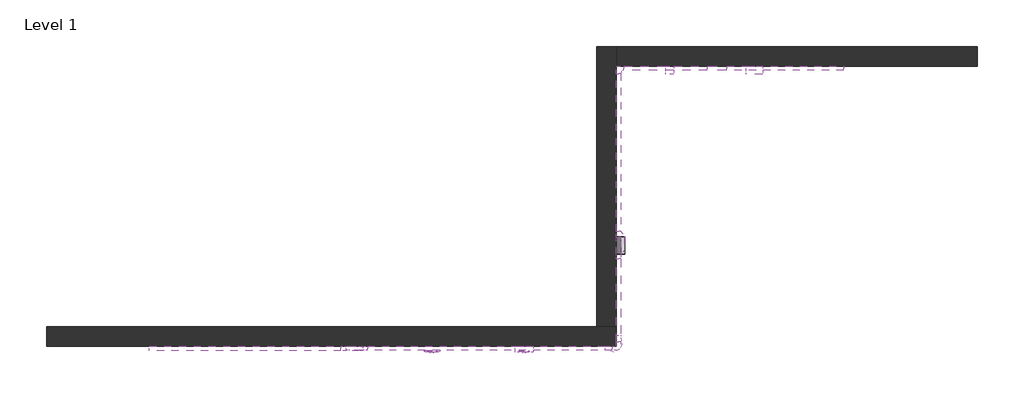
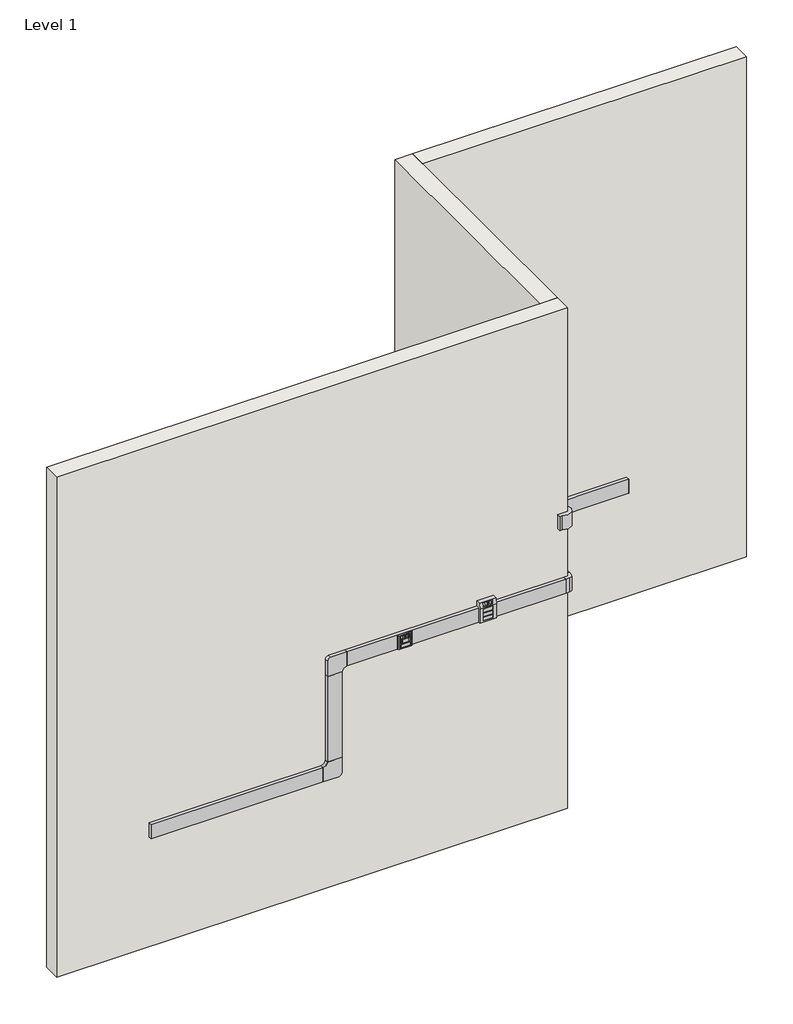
# One storey: 29 proxies, 3 walls.
"""IFC4 building model written with IfcOpenShell, lengths in millimetres."""

from ifc_helpers import new_model, si_unit, origin, origin_with_axes, place, context, project, spatial, polyline, outline, extrude, faceted_brep, transform, mapped, element, save
from components import angled_adapter_ivory_76baae0c, cm_end_plate_fog_white_c181d395, fiber_ready_white_dd5d93b4, ivory_691682e6, ivory_b4b323ff, ivory_0786d39a, ivory_51c7f417, ivory_9706c25e, ivory_1cf6c8a1, ivory_bd3593d5, ivory_71392ab2, ivory_aa0b979c, ivory_edc892b2, ivory_f053f690, ivory_ad3d094f, ivory_1fea8b6f, ivory_9e47778d, ivory_71453573, ivory_619f4564, ivory_43a2051e, ivory_2a843b50, s2_end_plate_white_590d6700, standard_ivory_0c36f66c

model = new_model("IFC4")

# Units and contexts
model_context = context("Model", 3, world=origin())
ifc_project = project(units=[si_unit("LENGTHUNIT", "METRE", prefix="MILLI")], contexts=[model_context])

# Site, building, storey
site = spatial("IfcSite", under=ifc_project)
building = spatial("IfcBuilding", under=site)
storey = spatial("IfcBuildingStorey", under=building, Name="Level 1", Elevation=0.0)

# Proxies
placement = place(None, origin())
angled_adapter_ivory_shape = angled_adapter_ivory_76baae0c(model_context)
element("IfcBuildingElementProxy", 1, Name="Face_Plate-4000_Series-Wiremold : Angled Adapter, Ivory", ObjectType="Face_Plate-4000_Series-Wiremold : Angled Adapter, Ivory", at=placement, inside=storey, context=model_context, shape_type="MappedRepresentation", body=[
    mapped(angled_adapter_ivory_shape, transform((-4088.7082561, 2518.3486407, 2798.098036), x_axis=(-1.0, 0.0, 0.0), y_axis=(0.0, 0.0, -1.0), z_axis=(0.0, -1.0, 0.0))),
])
element("IfcBuildingElementProxy", 2, Name="Face_Plate-4000_Series-Wiremold : Angled Adapter, White", ObjectType="Face_Plate-4000_Series-Wiremold : Angled Adapter, White", at=placement, inside=storey, context=model_context, shape_type="MappedRepresentation", body=[
    mapped(angled_adapter_ivory_shape, transform((-3136.2082561, 2522.2508131, 2862.7141653), x_axis=(-1.0, 0.0, 0.0), y_axis=(0.0, -0.17364817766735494, -0.9848077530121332), z_axis=(0.0, -0.9848077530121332, 0.17364817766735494))),
])
cm_end_plate_fog_white_shape = cm_end_plate_fog_white_c181d395(model_context)
element("IfcBuildingElementProxy", 3, Name="Face_Plate-4000_Series-Wiremold : CM End Plate, Fog White", ObjectType="Face_Plate-4000_Series-Wiremold : CM End Plate, Fog White", at=placement, inside=storey, context=model_context, shape_type="MappedRepresentation", body=[
    mapped(cm_end_plate_fog_white_shape, transform((-4088.7082561, 2518.3486407, 2694.974036), x_axis=(-1.0, 0.0, 0.0), y_axis=(0.0, 0.0, -1.0), z_axis=(0.0, -1.0, 0.0))),
])
element("IfcBuildingElementProxy", 4, Name="Face_Plate-4000_Series-Wiremold : Duplex, Gray", ObjectType="Face_Plate-4000_Series-Wiremold : Duplex, Gray", at=placement, inside=storey, context=model_context, shape_type="MappedRepresentation", body=[
    mapped(cm_end_plate_fog_white_shape, transform((-3136.2082561, 2516.5706407, 2795.812036), x_axis=(1.0, 0.0, 0.0), y_axis=(0.0, 0.0, 1.0), z_axis=(0.0, -1.0, 0.0))),
])
fiber_ready_white_shape = fiber_ready_white_dd5d93b4(model_context)
element("IfcBuildingElementProxy", 5, Name="Elbow-5500_Series-Wiremold-External : Fiber Ready, White", ObjectType="Elbow-5500_Series-Wiremold-External : Fiber Ready, White", at=placement, inside=storey, context=model_context, shape_type="MappedRepresentation", body=[
    mapped(fiber_ready_white_shape, transform((-2183.4535942, 2568.6914407, 3533.936036), x_axis=(1.0, 0.0, 0.0), y_axis=(0.0, 0.0, 1.0), z_axis=(0.0, -1.0, 0.0))),
])
element("IfcBuildingElementProxy", 6, Name="Face_Plate-4000_Series-Wiremold : Furniture Adapter, White", ObjectType="Face_Plate-4000_Series-Wiremold : Furniture Adapter, White", at=placement, inside=storey, context=model_context, shape_type="MappedRepresentation", body=[
    mapped(cm_end_plate_fog_white_shape, transform((-3136.2082561, 2516.5706407, 2697.260036), x_axis=(1.0, 0.0, 0.0), y_axis=(0.0, 0.0, 1.0), z_axis=(0.0, -1.0, 0.0))),
])
ivory_shape = ivory_691682e6(model_context)
element("IfcBuildingElementProxy", 7, Name="Elbow-5500_Series-Wiremold-Flat : Ivory", ObjectType="Elbow-5500_Series-Wiremold-Flat : Ivory", at=placement, inside=storey, context=model_context, shape_type="MappedRepresentation", body=[
    mapped(ivory_shape, transform((-4893.5326561, 2568.6914407, 1428.987236), x_axis=(1.0, 0.0, 0.0), y_axis=(0.0, 0.0, 1.0), z_axis=(0.0, -1.0, 0.0))),
])
ivory_2_shape = ivory_b4b323ff(model_context)
element("IfcBuildingElementProxy", 8, Name="Connector-5500_Series-Wiremold-Take_Off : Ivory", ObjectType="Connector-5500_Series-Wiremold-Take_Off : Ivory", at=placement, inside=storey, context=model_context, shape_type="MappedRepresentation", body=[
    mapped(ivory_2_shape, transform((-2139.0035942, 3608.4658407, 1370.211636), x_axis=(0.0, 0.0, -1.0), y_axis=(0.0, 1.0, 0.0), z_axis=(1.0, 0.0, 0.0))),
])
ivory_3_shape = ivory_0786d39a(model_context)
element("IfcBuildingElementProxy", 9, Name="Elbow-5500_Series-Wiremold-Internal : Ivory", ObjectType="Elbow-5500_Series-Wiremold-Internal : Ivory", at=placement, inside=storey, context=model_context, shape_type="MappedRepresentation", body=[
    mapped(ivory_3_shape, transform((-2183.4535942, 5464.2914407, 1370.211636), x_axis=(0.0, 1.0, 0.0), y_axis=(0.0, 0.0, 1.0), z_axis=(1.0, 0.0, 0.0))),
])
ivory_4_shape = ivory_51c7f417(model_context)
element("IfcBuildingElementProxy", 10, Name="End_Fitting-5500_Series-Wiremold-Entrance : Ivory", ObjectType="End_Fitting-5500_Series-Wiremold-Entrance : Ivory", at=placement, inside=storey, context=model_context, shape_type="MappedRepresentation", body=[
    mapped(ivory_4_shape, transform((-2183.4535942, 3608.4658407, 400.312636), x_axis=(0.0, 0.0, -1.0), y_axis=(0.0, 1.0, 0.0), z_axis=(1.0, 0.0, 0.0))),
])
ivory_5_shape = ivory_9706c25e(model_context)
element("IfcBuildingElementProxy", 11, Name="Connector-5500_Series-Wiremold-Backfeed : Ivory", ObjectType="Connector-5500_Series-Wiremold-Backfeed : Ivory", at=placement, inside=storey, context=model_context, shape_type="MappedRepresentation", body=[
    mapped(ivory_5_shape, transform((-1142.0535942, 5464.2914407, 1370.211636), x_axis=(1.0, 0.0, 0.0), y_axis=(0.0, 0.0, 1.0), z_axis=(0.0, -1.0, 0.0))),
])
ivory_6_shape = ivory_1cf6c8a1(model_context)
element("IfcBuildingElementProxy", 12, Name="Transition_Fitting-5500_Series-Wiremold-400_800_2300_PN03_PN05_PN10 : Ivory", ObjectType="Transition_Fitting-5500_Series-Wiremold-400_800_2300_PN03_PN05_PN10 : Ivory", at=placement, inside=storey, context=model_context, shape_type="MappedRepresentation", body=[
    mapped(ivory_6_shape, transform((-1631.0035942, 5419.8414407, 1370.211636), x_axis=(1.0, 0.0, 0.0), y_axis=(0.0, 0.0, 1.0), z_axis=(0.0, -1.0, 0.0))),
])
ivory_7_shape = ivory_bd3593d5(model_context)
element("IfcBuildingElementProxy", 13, Name="End_Cap-5500_Series-Wiremold : Ivory", ObjectType="End_Cap-5500_Series-Wiremold : Ivory", at=placement, inside=storey, context=model_context, shape_type="MappedRepresentation", body=[
    mapped(ivory_7_shape, transform((166.0464058, 5442.0664407, 1370.211636), x_axis=(0.0, 0.0, 1.0), y_axis=(0.0, -1.0, 0.0), z_axis=(1.0, 0.0, 0.0))),
])
ivory_8_shape = ivory_71392ab2(model_context)
element("IfcBuildingElementProxy", 14, Name="Transition_Fitting-5500_Series-Wiremold-5400 : Ivory", ObjectType="Transition_Fitting-5500_Series-Wiremold-5400 : Ivory", at=placement, inside=storey, context=model_context, shape_type="MappedRepresentation", body=[
    mapped(ivory_8_shape, transform((-754.7035942, 5419.8414407, 1370.211636), x_axis=(1.0, 0.0, 0.0), y_axis=(0.0, 0.0, 1.0), z_axis=(0.0, -1.0, 0.0))),
])
ivory_9_shape = ivory_aa0b979c(model_context)
element("IfcBuildingElementProxy", 15, Name="Device_Bracket-5500_Series-Wiremold-In_Line : Ivory", ObjectType="Device_Bracket-5500_Series-Wiremold-In_Line : Ivory", at=placement, inside=storey, context=model_context, shape_type="MappedRepresentation", body=[
    mapped(ivory_9_shape, transform((-4088.7082561, 2524.2414407, 2746.536036), x_axis=(-1.0, 0.0, 0.0), y_axis=(0.0, 0.0, -1.0), z_axis=(0.0, -1.0, 0.0))),
])
ivory_10_shape = ivory_edc892b2(model_context)
element("IfcBuildingElementProxy", 16, Name="Device_Bracket-5500_Series-Wiremold-In_Line-Offset : Ivory", ObjectType="Device_Bracket-5500_Series-Wiremold-In_Line-Offset : Ivory", at=placement, inside=storey, context=model_context, shape_type="MappedRepresentation", body=[
    mapped(ivory_10_shape, transform((-3136.2082561, 2524.2414407, 2746.536036), x_axis=(1.0, 0.0, 0.0), y_axis=(0.0, 0.0, 1.0), z_axis=(0.0, -1.0, 0.0))),
])
element("IfcBuildingElementProxy", 17, Name="Elbow-5500_Series-Wiremold-Flat : Ivory", ObjectType="Elbow-5500_Series-Wiremold-Flat : Ivory", at=placement, inside=storey, context=model_context, shape_type="MappedRepresentation", body=[
    mapped(ivory_shape, transform((-4893.5326561, 2568.6914407, 2746.536036), x_axis=(-1.0, 0.0, 0.0), y_axis=(0.0, 0.0, -1.0), z_axis=(0.0, -1.0, 0.0))),
])
element("IfcBuildingElementProxy", 18, Name="Elbow-5500_Series-Wiremold-Flat : Ivory", ObjectType="Elbow-5500_Series-Wiremold-Flat : Ivory", at=placement, inside=storey, context=model_context, shape_type="MappedRepresentation", body=[
    mapped(ivory_shape, transform((-2183.4535942, 3608.4658407, 2746.536036), x_axis=(0.0, 0.0, 1.0), y_axis=(0.0, -1.0, 0.0), z_axis=(1.0, 0.0, 0.0))),
])
ivory_11_shape = ivory_f053f690(model_context)
element("IfcBuildingElementProxy", 19, Name="Raceway-5500_Series-Wiremold-Multi_Channel : Ivory", ObjectType="Raceway-5500_Series-Wiremold-Multi_Channel : Ivory", at=placement, inside=storey, context=model_context, shape_type="MappedRepresentation", body=[
    mapped(ivory_11_shape, transform((-7012.8070561, 2568.6914407, 1428.987236), x_axis=(1.0, 0.0, 0.0), y_axis=(0.0, 0.0, 1.0), z_axis=(0.0, -1.0, 0.0))),
])
ivory_12_shape = ivory_ad3d094f(model_context)
element("IfcBuildingElementProxy", 20, Name="Raceway-5500_Series-Wiremold-Multi_Channel : Ivory", ObjectType="Raceway-5500_Series-Wiremold-Multi_Channel : Ivory", at=placement, inside=storey, context=model_context, shape_type="MappedRepresentation", body=[
    mapped(ivory_12_shape, transform((-4893.5326561, 2568.6914407, 1567.061636), x_axis=(0.0, 0.0, 1.0), y_axis=(-1.0, 0.0, 0.0), z_axis=(0.0, -1.0, 0.0))),
])
ivory_13_shape = ivory_1fea8b6f(model_context)
element("IfcBuildingElementProxy", 21, Name="Raceway-5500_Series-Wiremold-Multi_Channel : Ivory", ObjectType="Raceway-5500_Series-Wiremold-Multi_Channel : Ivory", at=placement, inside=storey, context=model_context, shape_type="MappedRepresentation", body=[
    mapped(ivory_13_shape, transform((-4755.4582561, 2568.6914407, 2746.536036), x_axis=(1.0, 0.0, 0.0), y_axis=(0.0, 0.0, 1.0), z_axis=(0.0, -1.0, 0.0))),
])
ivory_14_shape = ivory_9e47778d(model_context)
element("IfcBuildingElementProxy", 22, Name="Raceway-5500_Series-Wiremold-Multi_Channel : Ivory", ObjectType="Raceway-5500_Series-Wiremold-Multi_Channel : Ivory", at=placement, inside=storey, context=model_context, shape_type="MappedRepresentation", body=[
    mapped(ivory_14_shape, transform((-2183.4535942, 2613.1414407, 2746.536036), x_axis=(0.0, 1.0, 0.0), y_axis=(0.0, 0.0, 1.0), z_axis=(1.0, 0.0, 0.0))),
])
ivory_15_shape = ivory_71453573(model_context)
element("IfcBuildingElementProxy", 23, Name="Raceway-5500_Series-Wiremold-Multi_Channel : Ivory", ObjectType="Raceway-5500_Series-Wiremold-Multi_Channel : Ivory", at=placement, inside=storey, context=model_context, shape_type="MappedRepresentation", body=[
    mapped(ivory_15_shape, transform((-2183.4535942, 3608.4658407, 2608.461636), x_axis=(0.0, 0.0, -1.0), y_axis=(0.0, 1.0, 0.0), z_axis=(1.0, 0.0, 0.0))),
])
ivory_16_shape = ivory_619f4564(model_context)
element("IfcBuildingElementProxy", 24, Name="Raceway-5500_Series-Wiremold-Multi_Channel : Ivory", ObjectType="Raceway-5500_Series-Wiremold-Multi_Channel : Ivory", at=placement, inside=storey, context=model_context, shape_type="MappedRepresentation", body=[
    mapped(ivory_16_shape, transform((-2183.4535942, 3755.3032407, 1370.211636), x_axis=(0.0, 1.0, 0.0), y_axis=(0.0, 0.0, 1.0), z_axis=(1.0, 0.0, 0.0))),
])
ivory_17_shape = ivory_43a2051e(model_context)
element("IfcBuildingElementProxy", 25, Name="Raceway-5500_Series-Wiremold-Multi_Channel : Ivory", ObjectType="Raceway-5500_Series-Wiremold-Multi_Channel : Ivory", at=placement, inside=storey, context=model_context, shape_type="MappedRepresentation", body=[
    mapped(ivory_17_shape, transform((-2107.2535942, 5464.2914407, 1370.211636), x_axis=(1.0, 0.0, 0.0), y_axis=(0.0, 0.0, 1.0), z_axis=(0.0, -1.0, 0.0))),
])
ivory_18_shape = ivory_2a843b50(model_context)
element("IfcBuildingElementProxy", 26, Name="Raceway-5500_Series-Wiremold-Multi_Channel : Ivory", ObjectType="Raceway-5500_Series-Wiremold-Multi_Channel : Ivory", at=placement, inside=storey, context=model_context, shape_type="MappedRepresentation", body=[
    mapped(ivory_18_shape, transform((-1040.4535942, 5464.2914407, 1370.211636), x_axis=(1.0, 0.0, 0.0), y_axis=(0.0, 0.0, 1.0), z_axis=(0.0, -1.0, 0.0))),
])
s2_end_plate_white_shape = s2_end_plate_white_590d6700(model_context)
element("IfcBuildingElementProxy", 27, Name="Face_Plate-4000_Series-Wiremold : S2 End Plate, White", ObjectType="Face_Plate-4000_Series-Wiremold : S2 End Plate, White", at=placement, inside=storey, context=model_context, shape_type="MappedRepresentation", body=[
    mapped(s2_end_plate_white_shape, transform((-4088.7082561, 2518.3486407, 2746.536036), x_axis=(-1.0, 0.0, 0.0), y_axis=(0.0, 0.0, -1.0), z_axis=(0.0, -1.0, 0.0))),
])
element("IfcBuildingElementProxy", 28, Name="Face_Plate-4000_Series-Wiremold : Single Receptacle, 1.59 In, White", ObjectType="Face_Plate-4000_Series-Wiremold : Single Receptacle, 1.59 In, White", at=placement, inside=storey, context=model_context, shape_type="MappedRepresentation", body=[
    mapped(cm_end_plate_fog_white_shape, transform((-3136.2082561, 2516.5706407, 2746.536036), x_axis=(1.0, 0.0, 0.0), y_axis=(0.0, 0.0, 1.0), z_axis=(0.0, -1.0, 0.0))),
])
standard_ivory_shape = standard_ivory_0c36f66c(model_context)
element("IfcBuildingElementProxy", 29, Name="Elbow-5500_Series-Wiremold-External : Standard, Ivory", ObjectType="Elbow-5500_Series-Wiremold-External : Standard, Ivory", at=placement, inside=storey, context=model_context, shape_type="MappedRepresentation", body=[
    mapped(standard_ivory_shape, transform((-2183.4535942, 2568.6914407, 2746.536036), x_axis=(1.0, 0.0, 0.0), y_axis=(0.0, 0.0, 1.0), z_axis=(0.0, -1.0, 0.0))),
])

# Walls
element("IfcWall", 30, ObjectType="Generic - 8\"", at=placement, inside=storey, context=model_context, shape_type="Brep", body=[
    faceted_brep([(-8076.2535942, 2568.6914407, 0.0), (-2183.4535942, 2568.6914407, 0.0), (-2183.4535942, 2568.6914407, 6096.0), (-8076.2535942, 2568.6914407, 6096.0), (-8076.2535942, 2771.8914407, 0.0), (-8076.2535942, 2771.8914407, 6096.0), (-2386.6535942, 2771.8914407, 6096.0), (-2183.4535942, 2771.8914407, 6096.0), (-2183.4535942, 2771.8914407, 0.0), (-2386.6535942, 2771.8914407, 0.0)], [[[0, 1, 2, 3]], [[4, 5, 6, 7, 8, 9]], [[1, 0, 4, 9, 8]], [[3, 2, 7, 6, 5]], [[0, 3, 5, 4]], [[2, 1, 8, 7]]]),
])
element("IfcWall", 31, ObjectType="Generic - 8\"", at=placement, inside=storey, context=model_context, shape_type="Brep", body=[
    faceted_brep([(-2183.4535942, 2771.8914407, 0.0), (-2183.4535942, 5464.2914407, 0.0), (-2183.4535942, 5667.4914407, 0.0), (-2183.4535942, 5667.4914407, 6096.0), (-2183.4535942, 5464.2914407, 6096.0), (-2183.4535942, 2771.8914407, 6096.0), (-2386.6535942, 2771.8914407, 0.0), (-2386.6535942, 2771.8914407, 6096.0), (-2386.6535942, 5667.4914407, 6096.0), (-2386.6535942, 5667.4914407, 0.0)], [[[0, 1, 2, 3, 4, 5]], [[6, 7, 8, 9]], [[2, 1, 0, 6, 9]], [[5, 4, 3, 8, 7]], [[0, 5, 7, 6]], [[3, 2, 9, 8]]]),
])
element("IfcWall", 32, ObjectType="Generic - 8\"", at=placement, inside=storey, context=model_context, shape_type="SweptSolid", body=[
    extrude(outline(polyline([(1550.3464058, 5464.2914407), (-2183.4535942, 5464.2914407), (-2183.4535942, 5667.4914407), (1550.3464058, 5667.4914407), (1550.3464058, 5464.2914407)])), origin_with_axes(), (0.0, 0.0, 1.0), 6096.0),
])

save(model, "model.ifc")
